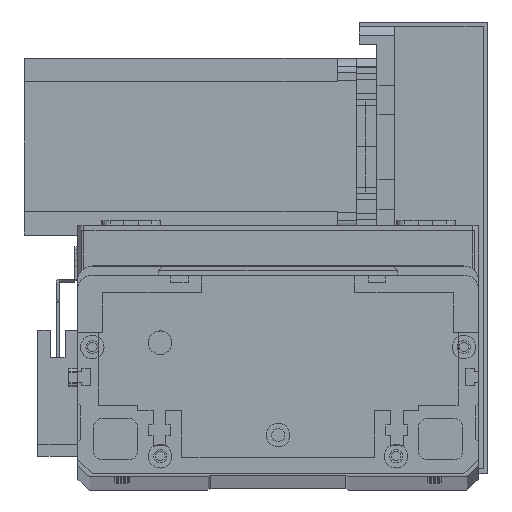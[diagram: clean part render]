
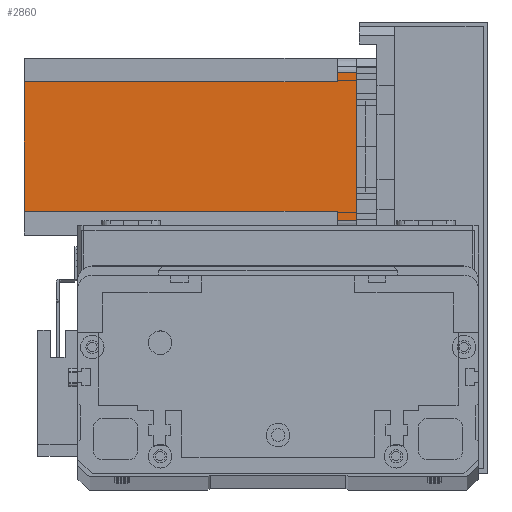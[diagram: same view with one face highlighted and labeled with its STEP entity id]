
A CAD part, top view. The second image highlights one B-rep face of the part: STEP entity #2860.
In plain terms, the highlighted planar face has unit normal (0, 0, 1) as drawn and (0, 1, 0) by its records, which use the part's own axes.
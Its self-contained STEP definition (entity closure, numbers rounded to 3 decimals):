
#131 = VERTEX_POINT ( 'NONE', #1803 ) ;
#138 = CARTESIAN_POINT ( 'NONE',  ( 5., 60., -112.5 ) ) ;
#153 = LINE ( 'NONE', #13073, #18637 ) ;
#553 = CARTESIAN_POINT ( 'NONE',  ( 5., 60., -6.5 ) ) ;
#709 = DIRECTION ( 'NONE',  ( -1., 0., 0. ) ) ;
#901 = LINE ( 'NONE', #26790, #25495 ) ;
#1803 = CARTESIAN_POINT ( 'NONE',  ( 8., 60., -6.5 ) ) ;
#2182 = ORIENTED_EDGE ( 'NONE', *, *, #13164, .F. ) ;
#2267 = VERTEX_POINT ( 'NONE', #21416 ) ;
#2627 = CARTESIAN_POINT ( 'NONE',  ( 52., 60., -112.5 ) ) ;
#2723 = ORIENTED_EDGE ( 'NONE', *, *, #23752, .F. ) ;
#2860 = ADVANCED_FACE ( 'NONE', ( #25700 ), #21943, .T. ) ;
#3921 = VERTEX_POINT ( 'NONE', #21834 ) ;
#3977 = AXIS2_PLACEMENT_3D ( 'NONE', #22327, #21905, #21874 ) ;
#4461 = VERTEX_POINT ( 'NONE', #22757 ) ;
#4885 = LINE ( 'NONE', #14899, #29192 ) ;
#4916 = ORIENTED_EDGE ( 'NONE', *, *, #21813, .F. ) ;
#5261 = LINE ( 'NONE', #8679, #29527 ) ;
#5707 = CARTESIAN_POINT ( 'NONE',  ( 5., 60., 0. ) ) ;
#5793 = ORIENTED_EDGE ( 'NONE', *, *, #22829, .F. ) ;
#6666 = VERTEX_POINT ( 'NONE', #26838 ) ;
#6683 = CARTESIAN_POINT ( 'NONE',  ( 8., 60., -6.5 ) ) ;
#7846 = DIRECTION ( 'NONE',  ( 0., 0., -1. ) ) ;
#8499 = LINE ( 'NONE', #138, #14054 ) ;
#8679 = CARTESIAN_POINT ( 'NONE',  ( 52., 60., -6.5 ) ) ;
#9487 = ORIENTED_EDGE ( 'NONE', *, *, #24710, .T. ) ;
#9802 = ORIENTED_EDGE ( 'NONE', *, *, #25531, .T. ) ;
#10949 = VERTEX_POINT ( 'NONE', #5707 ) ;
#11146 = VECTOR ( 'NONE', #25550, 1000. ) ;
#11997 = DIRECTION ( 'NONE',  ( -1., 0., 0. ) ) ;
#13073 = CARTESIAN_POINT ( 'NONE',  ( 52., 60., -112.5 ) ) ;
#13164 = EDGE_CURVE ( 'NONE', #3921, #10949, #22555, .T. ) ;
#14054 = VECTOR ( 'NONE', #17032, 1000. ) ;
#14899 = CARTESIAN_POINT ( 'NONE',  ( 55., 60., -112.5 ) ) ;
#15596 = VECTOR ( 'NONE', #709, 1000. ) ;
#15831 = DIRECTION ( 'NONE',  ( 1., 0., 0. ) ) ;
#16068 = ORIENTED_EDGE ( 'NONE', *, *, #21554, .T. ) ;
#17032 = DIRECTION ( 'NONE',  ( 0., 0., 1. ) ) ;
#17427 = LINE ( 'NONE', #6683, #11146 ) ;
#17516 = LINE ( 'NONE', #28328, #29795 ) ;
#18355 = ORIENTED_EDGE ( 'NONE', *, *, #23149, .T. ) ;
#18637 = VECTOR ( 'NONE', #29348, 1000. ) ;
#20897 = VERTEX_POINT ( 'NONE', #2627 ) ;
#21416 = CARTESIAN_POINT ( 'NONE',  ( 55., 60., -6.5 ) ) ;
#21554 = EDGE_CURVE ( 'NONE', #3921, #2267, #4885, .T. ) ;
#21813 = EDGE_CURVE ( 'NONE', #6666, #2267, #5261, .T. ) ;
#21834 = CARTESIAN_POINT ( 'NONE',  ( 55., 60., 0. ) ) ;
#21874 = DIRECTION ( 'NONE',  ( 0., 0., 1. ) ) ;
#21905 = DIRECTION ( 'NONE',  ( 0., 1., 0. ) ) ;
#21943 = PLANE ( 'NONE',  #3977 ) ;
#22327 = CARTESIAN_POINT ( 'NONE',  ( 0., 60., -112.5 ) ) ;
#22555 = LINE ( 'NONE', #22860, #15596 ) ;
#22757 = CARTESIAN_POINT ( 'NONE',  ( 8., 60., -112.5 ) ) ;
#22829 = EDGE_CURVE ( 'NONE', #20897, #6666, #153, .T. ) ;
#22860 = CARTESIAN_POINT ( 'NONE',  ( 0., 60., 0. ) ) ;
#23149 = EDGE_CURVE ( 'NONE', #20897, #4461, #17516, .T. ) ;
#23752 = EDGE_CURVE ( 'NONE', #131, #4461, #901, .T. ) ;
#24612 = DIRECTION ( 'NONE',  ( 0., 0., -1. ) ) ;
#24710 = EDGE_CURVE ( 'NONE', #131, #29557, #17427, .T. ) ;
#25495 = VECTOR ( 'NONE', #24612, 1000. ) ;
#25531 = EDGE_CURVE ( 'NONE', #29557, #10949, #8499, .T. ) ;
#25550 = DIRECTION ( 'NONE',  ( -1., 0., 0. ) ) ;
#25693 = EDGE_LOOP ( 'NONE', ( #2182, #16068, #4916, #5793, #18355, #2723, #9487, #9802 ) ) ;
#25700 = FACE_OUTER_BOUND ( 'NONE', #25693, .T. ) ;
#26790 = CARTESIAN_POINT ( 'NONE',  ( 8., 60., -112.5 ) ) ;
#26838 = CARTESIAN_POINT ( 'NONE',  ( 52., 60., -6.5 ) ) ;
#28328 = CARTESIAN_POINT ( 'NONE',  ( 0., 60., -112.5 ) ) ;
#29192 = VECTOR ( 'NONE', #7846, 1000. ) ;
#29348 = DIRECTION ( 'NONE',  ( 0., 0., 1. ) ) ;
#29527 = VECTOR ( 'NONE', #15831, 1000. ) ;
#29557 = VERTEX_POINT ( 'NONE', #553 ) ;
#29795 = VECTOR ( 'NONE', #11997, 1000. ) ;
